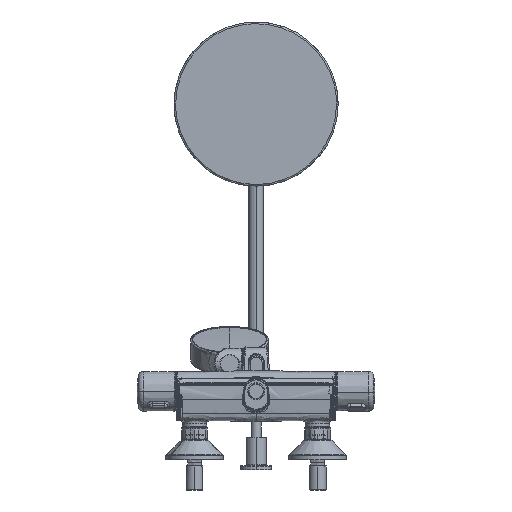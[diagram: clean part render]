
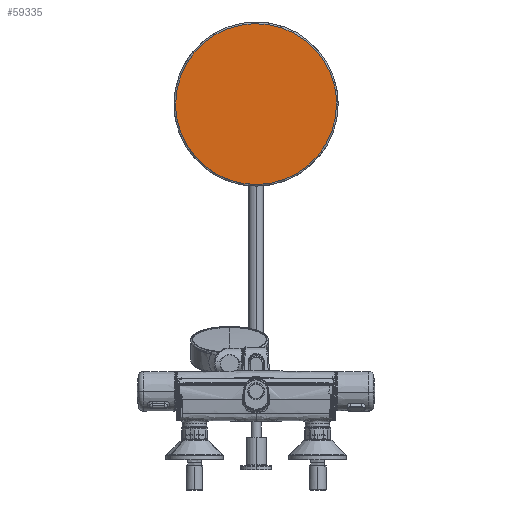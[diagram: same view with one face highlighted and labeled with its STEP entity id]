
A CAD part, front view. The second image highlights one B-rep face of the part: STEP entity #59335.
In plain terms, the highlighted planar face has unit normal (0, -1, 0).
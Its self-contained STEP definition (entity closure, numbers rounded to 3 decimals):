
#2536 = VERTEX_POINT ( 'NONE', #3587 ) ;
#2666 = CARTESIAN_POINT ( 'NONE',  ( 197.597, 1151.133, 1295.701 ) ) ;
#2890 = CARTESIAN_POINT ( 'NONE',  ( 324.63, 1151.133, 1320.969 ) ) ;
#3120 = CARTESIAN_POINT ( 'NONE',  ( 339.704, 1151.133, 1349.171 ) ) ;
#3587 = CARTESIAN_POINT ( 'NONE',  ( 344.709, 1151.133, 1380.748 ) ) ;
#3594 = CARTESIAN_POINT ( 'NONE',  ( 334.795, 1151.133, 1337.32 ) ) ;
#4130 = CARTESIAN_POINT ( 'NONE',  ( 148.709, 1151.133, 1387.163 ) ) ;
#4356 = CARTESIAN_POINT ( 'NONE',  ( 181.948, 1151.133, 1454.58 ) ) ;
#4590 = CARTESIAN_POINT ( 'NONE',  ( 153.714, 1151.133, 1412.326 ) ) ;
#5081 = AXIS2_PLACEMENT_3D ( 'NONE', #5777, #47976, #39115 ) ;
#5777 = CARTESIAN_POINT ( 'NONE',  ( 246.709, 1151.133, 1380.748 ) ) ;
#5940 = CARTESIAN_POINT ( 'NONE',  ( 341.575, 1151.133, 1406.158 ) ) ;
#7991 = CARTESIAN_POINT ( 'NONE',  ( 221.3, 1151.133, 1285.883 ) ) ;
#8448 = CARTESIAN_POINT ( 'NONE',  ( 168.789, 1151.133, 1320.969 ) ) ;
#8932 = CARTESIAN_POINT ( 'NONE',  ( 344.709, 1151.133, 1374.334 ) ) ;
#9239 = CARTESIAN_POINT ( 'NONE',  ( 233.881, 1151.133, 1478.117 ) ) ;
#9703 = CARTESIAN_POINT ( 'NONE',  ( 272.119, 1151.133, 1475.614 ) ) ;
#9916 = CARTESIAN_POINT ( 'NONE',  ( 161.662, 1151.133, 1429.861 ) ) ;
#10148 = CARTESIAN_POINT ( 'NONE',  ( 240.295, 1151.133, 1478.749 ) ) ;
#13519 = CARTESIAN_POINT ( 'NONE',  ( 158.624, 1151.133, 1337.32 ) ) ;
#13966 = CARTESIAN_POINT ( 'NONE',  ( 259.537, 1151.133, 1283.38 ) ) ;
#14204 = CARTESIAN_POINT ( 'NONE',  ( 240.295, 1151.133, 1282.748 ) ) ;
#14333 = ORIENTED_EDGE ( 'NONE', *, *, #35018, .F. ) ;
#14519 = CARTESIAN_POINT ( 'NONE',  ( 320.541, 1151.133, 1445.51 ) ) ;
#14743 = CARTESIAN_POINT ( 'NONE',  ( 158.624, 1151.133, 1424.177 ) ) ;
#18580 = CARTESIAN_POINT ( 'NONE',  ( 233.881, 1151.133, 1283.38 ) ) ;
#18800 = CARTESIAN_POINT ( 'NONE',  ( 151.844, 1151.133, 1355.339 ) ) ;
#19033 = CARTESIAN_POINT ( 'NONE',  ( 172.877, 1151.133, 1315.987 ) ) ;
#19273 = CARTESIAN_POINT ( 'NONE',  ( 311.47, 1151.133, 1306.916 ) ) ;
#20503 = CARTESIAN_POINT ( 'NONE',  ( 215.132, 1151.133, 1473.743 ) ) ;
#21635 = CARTESIAN_POINT ( 'NONE',  ( 324.63, 1151.133, 1440.527 ) ) ;
#23863 = CARTESIAN_POINT ( 'NONE',  ( 203.28, 1151.133, 1292.663 ) ) ;
#24088 = CARTESIAN_POINT ( 'NONE',  ( 341.575, 1151.133, 1355.339 ) ) ;
#24328 = CARTESIAN_POINT ( 'NONE',  ( 149.341, 1151.133, 1367.92 ) ) ;
#24567 = CARTESIAN_POINT ( 'NONE',  ( 344.709, 1151.133, 1380.748 ) ) ;
#25774 = CARTESIAN_POINT ( 'NONE',  ( 253.123, 1151.133, 1478.749 ) ) ;
#26008 = CARTESIAN_POINT ( 'NONE',  ( 334.795, 1151.133, 1424.177 ) ) ;
#26807 = B_SPLINE_CURVE_WITH_KNOTS ( 'NONE', 3,
 ( #62248, #4130, #36130, #30642, #4590, #14743, #9916, #41458, #52095, #4356, #41226, #61779, #41693, #20503, #57402, #9239, #10148, #25774, #41005, #9703, #46573, #62693, #67068, #31089, #47012, #14519, #21635, #31300, #26008, #36584, #5940, #42819, #47693, #68218 ),
 .UNSPECIFIED., .F., .F.,
 ( 4, 2, 2, 2, 2, 2, 2, 2, 2, 2, 2, 2, 2, 2, 2, 2, 4 ),
 ( 0.5, 0.531, 0.563, 0.594, 0.625, 0.656, 0.688, 0.719, 0.75, 0.781, 0.813, 0.844, 0.875, 0.906, 0.938, 0.969, 1. ),
 .UNSPECIFIED. ) ;
#28941 = CARTESIAN_POINT ( 'NONE',  ( 295.822, 1151.133, 1295.701 ) ) ;
#29401 = CARTESIAN_POINT ( 'NONE',  ( 148.709, 1151.133, 1380.748 ) ) ;
#29865 = CARTESIAN_POINT ( 'NONE',  ( 344.078, 1151.133, 1367.92 ) ) ;
#30642 = CARTESIAN_POINT ( 'NONE',  ( 151.844, 1151.133, 1406.158 ) ) ;
#31089 = CARTESIAN_POINT ( 'NONE',  ( 306.488, 1151.133, 1458.669 ) ) ;
#31300 = CARTESIAN_POINT ( 'NONE',  ( 331.757, 1151.133, 1429.861 ) ) ;
#33969 = EDGE_CURVE ( 'NONE', #35600, #2536, #26807, .T. ) ;
#34220 = CARTESIAN_POINT ( 'NONE',  ( 215.132, 1151.133, 1287.754 ) ) ;
#35018 = EDGE_CURVE ( 'NONE', #2536, #35600, #63983, .T. ) ;
#35600 = VERTEX_POINT ( 'NONE', #62198 ) ;
#36130 = CARTESIAN_POINT ( 'NONE',  ( 149.341, 1151.133, 1393.576 ) ) ;
#36198 = FACE_OUTER_BOUND ( 'NONE', #49570, .T. ) ;
#36584 = CARTESIAN_POINT ( 'NONE',  ( 339.704, 1151.133, 1412.326 ) ) ;
#39115 = DIRECTION ( 'NONE',  ( 1., 0., 0. ) ) ;
#39738 = CARTESIAN_POINT ( 'NONE',  ( 320.541, 1151.133, 1315.987 ) ) ;
#39971 = CARTESIAN_POINT ( 'NONE',  ( 331.757, 1151.133, 1331.636 ) ) ;
#41005 = CARTESIAN_POINT ( 'NONE',  ( 259.537, 1151.133, 1478.117 ) ) ;
#41226 = CARTESIAN_POINT ( 'NONE',  ( 186.93, 1151.133, 1458.669 ) ) ;
#41458 = CARTESIAN_POINT ( 'NONE',  ( 168.789, 1151.133, 1440.527 ) ) ;
#41693 = CARTESIAN_POINT ( 'NONE',  ( 203.28, 1151.133, 1468.834 ) ) ;
#42819 = CARTESIAN_POINT ( 'NONE',  ( 344.078, 1151.133, 1393.576 ) ) ;
#45084 = CARTESIAN_POINT ( 'NONE',  ( 161.662, 1151.133, 1331.636 ) ) ;
#45802 = CARTESIAN_POINT ( 'NONE',  ( 290.138, 1151.133, 1292.663 ) ) ;
#46573 = CARTESIAN_POINT ( 'NONE',  ( 278.286, 1151.133, 1473.743 ) ) ;
#47012 = CARTESIAN_POINT ( 'NONE',  ( 311.47, 1151.133, 1454.58 ) ) ;
#47693 = CARTESIAN_POINT ( 'NONE',  ( 344.709, 1151.133, 1387.163 ) ) ;
#47976 = DIRECTION ( 'NONE',  ( 0., 1., 0. ) ) ;
#49570 = EDGE_LOOP ( 'NONE', ( #14333, #54931 ) ) ;
#50182 = CARTESIAN_POINT ( 'NONE',  ( 306.488, 1151.133, 1302.828 ) ) ;
#50641 = CARTESIAN_POINT ( 'NONE',  ( 181.948, 1151.133, 1306.916 ) ) ;
#50876 = CARTESIAN_POINT ( 'NONE',  ( 153.714, 1151.133, 1349.171 ) ) ;
#52095 = CARTESIAN_POINT ( 'NONE',  ( 172.877, 1151.133, 1445.51 ) ) ;
#54931 = ORIENTED_EDGE ( 'NONE', *, *, #33969, .F. ) ;
#55481 = CARTESIAN_POINT ( 'NONE',  ( 253.123, 1151.133, 1282.748 ) ) ;
#55723 = CARTESIAN_POINT ( 'NONE',  ( 278.286, 1151.133, 1287.754 ) ) ;
#57402 = CARTESIAN_POINT ( 'NONE',  ( 221.3, 1151.133, 1475.614 ) ) ;
#59335 = ADVANCED_FACE ( 'NONE', ( #36198 ), #63669, .F. ) ;
#60792 = CARTESIAN_POINT ( 'NONE',  ( 186.93, 1151.133, 1302.828 ) ) ;
#61005 = CARTESIAN_POINT ( 'NONE',  ( 148.709, 1151.133, 1374.334 ) ) ;
#61779 = CARTESIAN_POINT ( 'NONE',  ( 197.597, 1151.133, 1465.796 ) ) ;
#62198 = CARTESIAN_POINT ( 'NONE',  ( 148.709, 1151.133, 1380.748 ) ) ;
#62248 = CARTESIAN_POINT ( 'NONE',  ( 148.709, 1151.133, 1380.748 ) ) ;
#62693 = CARTESIAN_POINT ( 'NONE',  ( 290.138, 1151.133, 1468.834 ) ) ;
#63669 = PLANE ( 'NONE',  #5081 ) ;
#63983 = B_SPLINE_CURVE_WITH_KNOTS ( 'NONE', 3,
 ( #24567, #8932, #29865, #24088, #3120, #3594, #39971, #2890, #39738, #19273, #50182, #28941, #45802, #55723, #65846, #13966, #55481, #14204, #18580, #7991, #34220, #23863, #2666, #60792, #50641, #19033, #8448, #45084, #13519, #50876, #18800, #24328, #61005, #29401 ),
 .UNSPECIFIED., .F., .F.,
 ( 4, 2, 2, 2, 2, 2, 2, 2, 2, 2, 2, 2, 2, 2, 2, 2, 4 ),
 ( 0., 0.031, 0.063, 0.094, 0.125, 0.156, 0.188, 0.219, 0.25, 0.281, 0.313, 0.344, 0.375, 0.406, 0.438, 0.469, 0.5 ),
 .UNSPECIFIED. ) ;
#65846 = CARTESIAN_POINT ( 'NONE',  ( 272.119, 1151.133, 1285.883 ) ) ;
#67068 = CARTESIAN_POINT ( 'NONE',  ( 295.822, 1151.133, 1465.796 ) ) ;
#68218 = CARTESIAN_POINT ( 'NONE',  ( 344.709, 1151.133, 1380.748 ) ) ;
